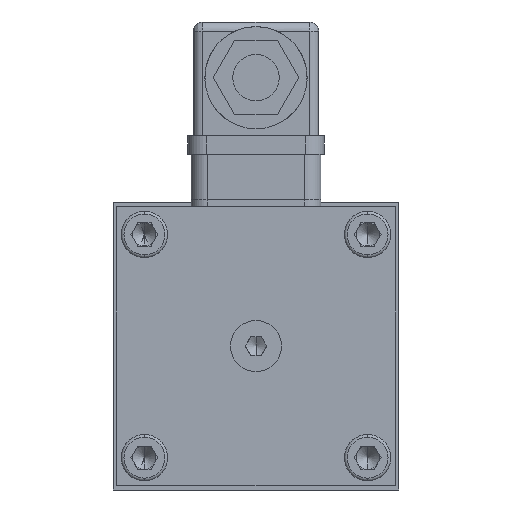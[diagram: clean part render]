
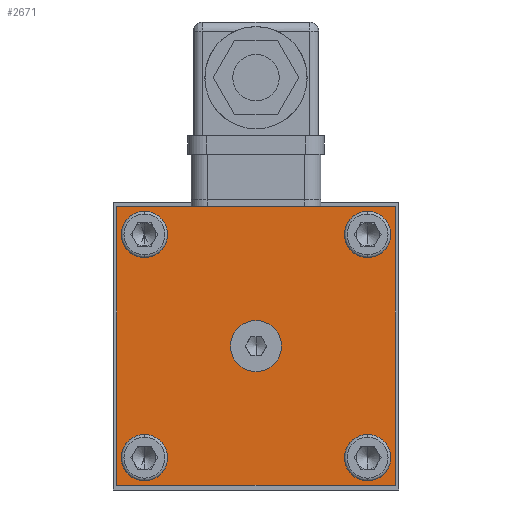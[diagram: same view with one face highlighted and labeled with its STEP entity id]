
A CAD part, left-side view. The second image highlights one B-rep face of the part: STEP entity #2671.
In plain terms, the highlighted planar face has unit normal (-1, 0, 0).
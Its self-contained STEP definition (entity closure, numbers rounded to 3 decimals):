
#90 = AXIS2_PLACEMENT_3D ( 'NONE', #14516, #873, #16794 ) ;
#215 = EDGE_LOOP ( 'NONE', ( #4667, #28539 ) ) ;
#535 = EDGE_CURVE ( 'NONE', #8599, #19326, #16051, .T. ) ;
#683 = EDGE_CURVE ( 'NONE', #24174, #25924, #1423, .T. ) ;
#708 = DIRECTION ( 'NONE',  ( 0., -1., 0. ) ) ;
#795 = DIRECTION ( 'NONE',  ( 0., 0., -1. ) ) ;
#873 = DIRECTION ( 'NONE',  ( -1., 0., 0. ) ) ;
#1423 = CIRCLE ( 'NONE', #3223, 5. ) ;
#1713 = ORIENTED_EDGE ( 'NONE', *, *, #535, .T. ) ;
#1987 = DIRECTION ( 'NONE',  ( 0., 0., 1. ) ) ;
#2400 = VECTOR ( 'NONE', #708, 1000. ) ;
#2671 = ADVANCED_FACE ( 'NONE', ( #3615, #9700, #15754, #27098, #21091, #15030 ), #21090, .T. ) ;
#2677 = VECTOR ( 'NONE', #24858, 1000. ) ;
#3133 = EDGE_LOOP ( 'NONE', ( #28278, #17485 ) ) ;
#3223 = AXIS2_PLACEMENT_3D ( 'NONE', #18834, #5080, #16449 ) ;
#3305 = CARTESIAN_POINT ( 'NONE',  ( -81.2, 0., 5.5 ) ) ;
#3466 = ORIENTED_EDGE ( 'NONE', *, *, #23219, .F. ) ;
#3615 = FACE_BOUND ( 'NONE', #22722, .T. ) ;
#3633 = CARTESIAN_POINT ( 'NONE',  ( -81.2, -24.04, 19.04 ) ) ;
#3709 = AXIS2_PLACEMENT_3D ( 'NONE', #22519, #8873, #24776 ) ;
#4113 = EDGE_CURVE ( 'NONE', #25924, #24174, #29078, .T. ) ;
#4152 = CARTESIAN_POINT ( 'NONE',  ( -81.2, -30., -30. ) ) ;
#4340 = AXIS2_PLACEMENT_3D ( 'NONE', #19841, #6161, #22099 ) ;
#4425 = EDGE_LOOP ( 'NONE', ( #6151, #14408 ) ) ;
#4667 = ORIENTED_EDGE ( 'NONE', *, *, #683, .F. ) ;
#4682 = VERTEX_POINT ( 'NONE', #15897 ) ;
#5080 = DIRECTION ( 'NONE',  ( -1., 0., 0. ) ) ;
#5149 = ORIENTED_EDGE ( 'NONE', *, *, #25421, .F. ) ;
#5886 = CIRCLE ( 'NONE', #17754, 5. ) ;
#6151 = ORIENTED_EDGE ( 'NONE', *, *, #6302, .F. ) ;
#6161 = DIRECTION ( 'NONE',  ( -1., 0., 0. ) ) ;
#6302 = EDGE_CURVE ( 'NONE', #4682, #28286, #20098, .T. ) ;
#6336 = CIRCLE ( 'NONE', #9010, 5.5 ) ;
#6829 = CARTESIAN_POINT ( 'NONE',  ( -81.2, 0., -5.5 ) ) ;
#7357 = DIRECTION ( 'NONE',  ( -1., 0., 0. ) ) ;
#7410 = DIRECTION ( 'NONE',  ( -1., 0., 0. ) ) ;
#7664 = ORIENTED_EDGE ( 'NONE', *, *, #28152, .F. ) ;
#7761 = VERTEX_POINT ( 'NONE', #18638 ) ;
#7852 = DIRECTION ( 'NONE',  ( -1., 0., 0. ) ) ;
#8320 = ORIENTED_EDGE ( 'NONE', *, *, #26266, .T. ) ;
#8599 = VERTEX_POINT ( 'NONE', #22562 ) ;
#8689 = VERTEX_POINT ( 'NONE', #27458 ) ;
#8873 = DIRECTION ( 'NONE',  ( -1., 0., 0. ) ) ;
#9010 = AXIS2_PLACEMENT_3D ( 'NONE', #21007, #7357, #23321 ) ;
#9385 = AXIS2_PLACEMENT_3D ( 'NONE', #23971, #10353, #26249 ) ;
#9700 = FACE_BOUND ( 'NONE', #4425, .T. ) ;
#9706 = DIRECTION ( 'NONE',  ( 0., -1., 0. ) ) ;
#10353 = DIRECTION ( 'NONE',  ( -1., 0., 0. ) ) ;
#10511 = CARTESIAN_POINT ( 'NONE',  ( -81.2, 24.04, -19.04 ) ) ;
#10915 = VECTOR ( 'NONE', #9706, 1000. ) ;
#11088 = AXIS2_PLACEMENT_3D ( 'NONE', #28005, #14445, #795 ) ;
#12490 = DIRECTION ( 'NONE',  ( -1., 0., 0. ) ) ;
#12819 = CIRCLE ( 'NONE', #9385, 5. ) ;
#12859 = AXIS2_PLACEMENT_3D ( 'NONE', #29196, #15614, #1987 ) ;
#13043 = CARTESIAN_POINT ( 'NONE',  ( -81.2, 30., -30. ) ) ;
#13802 = LINE ( 'NONE', #27901, #2400 ) ;
#13872 = CIRCLE ( 'NONE', #4340, 5. ) ;
#14407 = VERTEX_POINT ( 'NONE', #4152 ) ;
#14408 = ORIENTED_EDGE ( 'NONE', *, *, #21311, .F. ) ;
#14445 = DIRECTION ( 'NONE',  ( -1., 0., 0. ) ) ;
#14516 = CARTESIAN_POINT ( 'NONE',  ( -81.2, 24.04, -24.04 ) ) ;
#14795 = LINE ( 'NONE', #15832, #2677 ) ;
#14913 = EDGE_LOOP ( 'NONE', ( #25976, #3466, #1713, #8320 ) ) ;
#15030 = FACE_BOUND ( 'NONE', #3133, .T. ) ;
#15614 = DIRECTION ( 'NONE',  ( -1., 0., 0. ) ) ;
#15754 = FACE_BOUND ( 'NONE', #19672, .T. ) ;
#15755 = CIRCLE ( 'NONE', #3709, 5.5 ) ;
#15832 = CARTESIAN_POINT ( 'NONE',  ( -81.2, -30., 30. ) ) ;
#15897 = CARTESIAN_POINT ( 'NONE',  ( -81.2, 24.04, 29.04 ) ) ;
#15995 = EDGE_CURVE ( 'NONE', #8689, #20546, #12819, .T. ) ;
#16051 = LINE ( 'NONE', #26236, #22097 ) ;
#16449 = DIRECTION ( 'NONE',  ( 0., 0., 1. ) ) ;
#16794 = DIRECTION ( 'NONE',  ( 0., 0., 1. ) ) ;
#17485 = ORIENTED_EDGE ( 'NONE', *, *, #15995, .F. ) ;
#17671 = CARTESIAN_POINT ( 'NONE',  ( -81.2, -24.04, -19.04 ) ) ;
#17754 = AXIS2_PLACEMENT_3D ( 'NONE', #26100, #12490, #28362 ) ;
#18425 = ORIENTED_EDGE ( 'NONE', *, *, #20617, .F. ) ;
#18638 = CARTESIAN_POINT ( 'NONE',  ( -81.2, 24.04, -29.04 ) ) ;
#18834 = CARTESIAN_POINT ( 'NONE',  ( -81.2, -24.04, 24.04 ) ) ;
#19030 = EDGE_CURVE ( 'NONE', #19460, #24788, #6336, .T. ) ;
#19326 = VERTEX_POINT ( 'NONE', #13043 ) ;
#19460 = VERTEX_POINT ( 'NONE', #6829 ) ;
#19672 = EDGE_LOOP ( 'NONE', ( #5149, #7664 ) ) ;
#19841 = CARTESIAN_POINT ( 'NONE',  ( -81.2, 24.04, -24.04 ) ) ;
#20098 = CIRCLE ( 'NONE', #20344, 5. ) ;
#20344 = AXIS2_PLACEMENT_3D ( 'NONE', #21497, #7852, #23804 ) ;
#20546 = VERTEX_POINT ( 'NONE', #17671 ) ;
#20617 = EDGE_CURVE ( 'NONE', #24788, #19460, #15755, .T. ) ;
#20728 = ORIENTED_EDGE ( 'NONE', *, *, #19030, .F. ) ;
#21007 = CARTESIAN_POINT ( 'NONE',  ( -81.2, 0., 0. ) ) ;
#21058 = CARTESIAN_POINT ( 'NONE',  ( -81.2, 24.04, 24.04 ) ) ;
#21090 = PLANE ( 'NONE',  #11088 ) ;
#21091 = FACE_BOUND ( 'NONE', #215, .T. ) ;
#21311 = EDGE_CURVE ( 'NONE', #28286, #4682, #25958, .T. ) ;
#21497 = CARTESIAN_POINT ( 'NONE',  ( -81.2, 24.04, 24.04 ) ) ;
#21836 = CARTESIAN_POINT ( 'NONE',  ( -81.2, 24.04, 19.04 ) ) ;
#22097 = VECTOR ( 'NONE', #27186, 1000. ) ;
#22099 = DIRECTION ( 'NONE',  ( 0., 0., 1. ) ) ;
#22519 = CARTESIAN_POINT ( 'NONE',  ( -81.2, 0., 0. ) ) ;
#22562 = CARTESIAN_POINT ( 'NONE',  ( -81.2, 30., 30. ) ) ;
#22722 = EDGE_LOOP ( 'NONE', ( #18425, #20728 ) ) ;
#23018 = LINE ( 'NONE', #23363, #10915 ) ;
#23219 = EDGE_CURVE ( 'NONE', #8599, #27966, #13802, .T. ) ;
#23321 = DIRECTION ( 'NONE',  ( 0., 0., 1. ) ) ;
#23363 = CARTESIAN_POINT ( 'NONE',  ( -81.2, 30., -30. ) ) ;
#23374 = DIRECTION ( 'NONE',  ( 0., 0., 1. ) ) ;
#23804 = DIRECTION ( 'NONE',  ( 0., 0., 1. ) ) ;
#23944 = CIRCLE ( 'NONE', #90, 5. ) ;
#23971 = CARTESIAN_POINT ( 'NONE',  ( -81.2, -24.04, -24.04 ) ) ;
#24174 = VERTEX_POINT ( 'NONE', #25104 ) ;
#24730 = CARTESIAN_POINT ( 'NONE',  ( -81.2, -30., 30. ) ) ;
#24776 = DIRECTION ( 'NONE',  ( 0., 0., 1. ) ) ;
#24788 = VERTEX_POINT ( 'NONE', #3305 ) ;
#24858 = DIRECTION ( 'NONE',  ( 0., 0., -1. ) ) ;
#25104 = CARTESIAN_POINT ( 'NONE',  ( -81.2, -24.04, 29.04 ) ) ;
#25293 = AXIS2_PLACEMENT_3D ( 'NONE', #21058, #7410, #23374 ) ;
#25421 = EDGE_CURVE ( 'NONE', #28314, #7761, #13872, .T. ) ;
#25924 = VERTEX_POINT ( 'NONE', #3633 ) ;
#25958 = CIRCLE ( 'NONE', #25293, 5. ) ;
#25976 = ORIENTED_EDGE ( 'NONE', *, *, #27406, .F. ) ;
#26100 = CARTESIAN_POINT ( 'NONE',  ( -81.2, -24.04, -24.04 ) ) ;
#26236 = CARTESIAN_POINT ( 'NONE',  ( -81.2, 30., 30. ) ) ;
#26249 = DIRECTION ( 'NONE',  ( 0., 0., 1. ) ) ;
#26266 = EDGE_CURVE ( 'NONE', #19326, #14407, #23018, .T. ) ;
#26387 = EDGE_CURVE ( 'NONE', #20546, #8689, #5886, .T. ) ;
#27098 = FACE_OUTER_BOUND ( 'NONE', #14913, .T. ) ;
#27186 = DIRECTION ( 'NONE',  ( 0., 0., -1. ) ) ;
#27406 = EDGE_CURVE ( 'NONE', #27966, #14407, #14795, .T. ) ;
#27458 = CARTESIAN_POINT ( 'NONE',  ( -81.2, -24.04, -29.04 ) ) ;
#27901 = CARTESIAN_POINT ( 'NONE',  ( -81.2, 30., 30. ) ) ;
#27966 = VERTEX_POINT ( 'NONE', #24730 ) ;
#28005 = CARTESIAN_POINT ( 'NONE',  ( -81.2, 30., 30. ) ) ;
#28152 = EDGE_CURVE ( 'NONE', #7761, #28314, #23944, .T. ) ;
#28278 = ORIENTED_EDGE ( 'NONE', *, *, #26387, .F. ) ;
#28286 = VERTEX_POINT ( 'NONE', #21836 ) ;
#28314 = VERTEX_POINT ( 'NONE', #10511 ) ;
#28362 = DIRECTION ( 'NONE',  ( 0., 0., 1. ) ) ;
#28539 = ORIENTED_EDGE ( 'NONE', *, *, #4113, .F. ) ;
#29078 = CIRCLE ( 'NONE', #12859, 5. ) ;
#29196 = CARTESIAN_POINT ( 'NONE',  ( -81.2, -24.04, 24.04 ) ) ;
